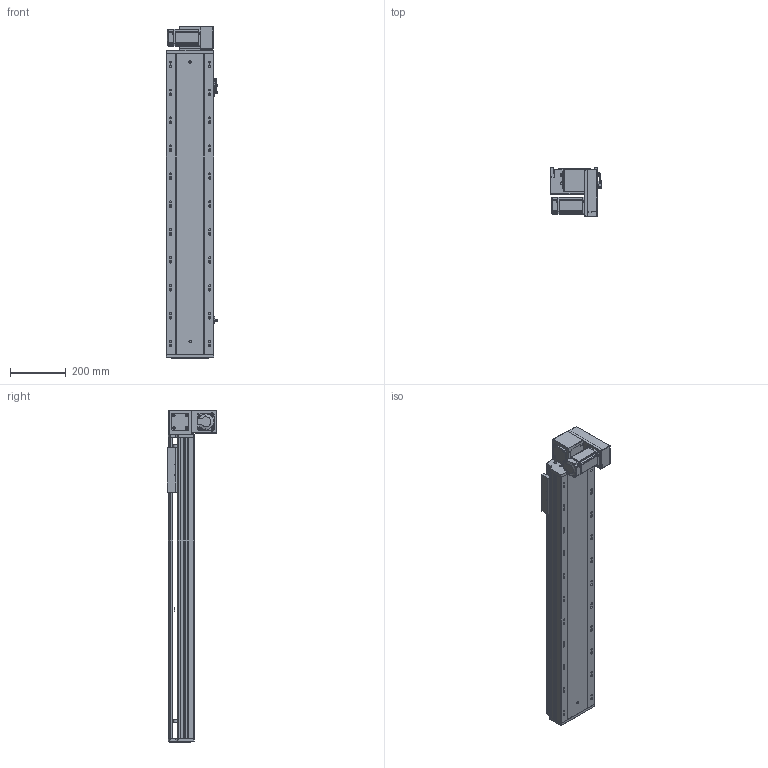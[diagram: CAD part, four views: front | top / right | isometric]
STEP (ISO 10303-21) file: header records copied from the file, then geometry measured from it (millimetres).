
FILE_DESCRIPTION (( 'STEP AP203' ), '1' );
FILE_NAME ('RY170-T-300-DR-P400W.SLDASM_800.step', '2021-03-01T08:23:16', ( '盈信电脑' ), ( '东莞市道滘镇水果街19号' ), 'SwSTEP 2.0', 'SolidWorks 2012', '' );
FILE_SCHEMA (( 'CONFIG_CONTROL_DESIGN' ));
Length unit declared in the file: millimetre
Products named in the file (19): 15; RY170-T-300-DR-P400W.SLDASM_800; RY170-T蹟翐M4; RY170-T-呴雄粣揤踡啣; 滅袉蝶18-10; RY120-T主同步轮轴承压盖; RY170-T肮祭湍揤踡輸2; RY170-T肮祭湍揤踡輸1; RY170-T肮祭謫裔啣; RY170翋肮祭謫釱; RY170同步轮电机安装板(400W); RY170肮祭謫ヶ裔啣; RY170肮祭謫萇儂欶; RY170-T-300肮祭謫倰第裔啣-DR_800; RY170外置感应片(200共用）; 覜茼ん672; RY170綴裔啣; RY170肮祭湍臏賑輸; RY170-T-300肮祭謫倰第菁釱-DR_800
Assembly tree (23 placements, depth 2):
  RY170-T-300-DR-P400W.SLDASM_800
    RY170-T-300肮祭謫倰第菁釱-DR_800
    RY170肮祭湍臏賑輸
    RY170-T-300肮祭謫倰第裔啣-DR_800
    RY170綴裔啣
    覜茼ん672  x3
    RY170外置感应片(200共用）
    RY170肮祭謫ヶ裔啣
    RY170翋肮祭謫釱
    RY170同步轮电机安装板(400W)
    RY170肮祭謫萇儂欶
    RY170-T肮祭湍揤踡輸1  x2
    RY170-T肮祭湍揤踡輸2  x2
    RY120-T主同步轮轴承压盖
    RY170-T肮祭謫裔啣
    RY170-T蹟翐M4
    滅袉蝶18-10  x2
    RY170-T-呴雄粣揤踡啣
    15
Bounding box: 183.7 x 178 x 1188 mm (x, y, z)
Volume: 6060346.7 mm3; surface area: 2053401.2 mm2
Topology: 23 solids, 23 shells, 2834 faces, 7970 edges, 5135 vertices
Faces by surface type: cylinder 1308, plane 1272, cone 224, bspline 30
Entity records: 86621 total; most frequent: CARTESIAN_POINT 20137, ORIENTED_EDGE 13672, DIRECTION 13204, EDGE_CURVE 6836, AXIS2_PLACEMENT_3D 4652, VERTEX_POINT 4491, LINE 3900, VECTOR 3900
